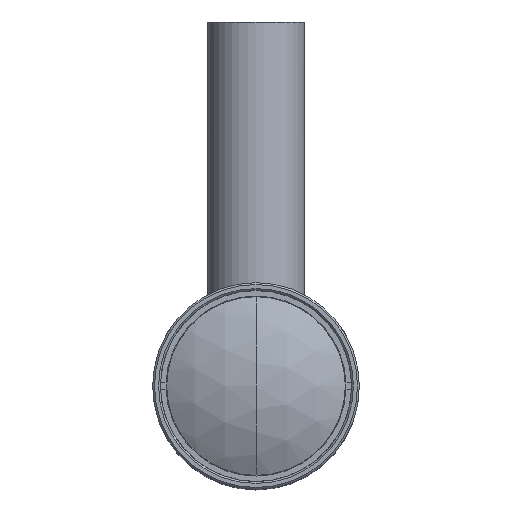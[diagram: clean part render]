
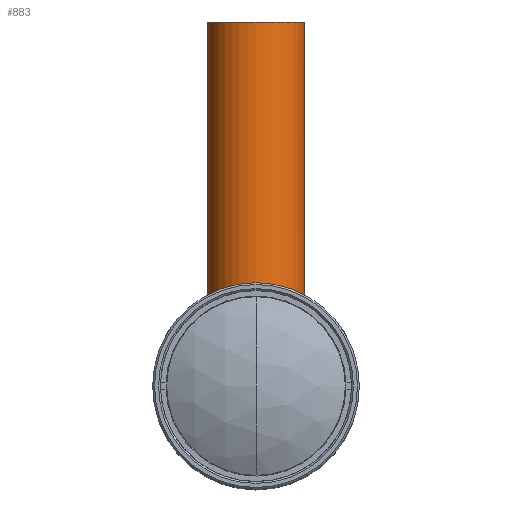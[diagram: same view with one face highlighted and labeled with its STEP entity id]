
A CAD part, top view. The second image highlights one B-rep face of the part: STEP entity #883.
In plain terms, the highlighted cylindrical face has radius 8 mm (diameter 16 mm), a partial arc.
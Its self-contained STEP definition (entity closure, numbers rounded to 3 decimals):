
#126 = AXIS2_PLACEMENT_3D ( 'NONE', #1042, #4088, #3054 ) ;
#287 = LINE ( 'NONE', #12971, #1755 ) ;
#377 = CARTESIAN_POINT ( 'NONE',  ( -7.938, 50.232, 31.879 ) ) ;
#574 = CARTESIAN_POINT ( 'NONE',  ( 0., 12.5, 30.88 ) ) ;
#631 = CARTESIAN_POINT ( 'NONE',  ( 7.938, 51.768, 31.879 ) ) ;
#637 = DIRECTION ( 'NONE',  ( 0., -1., 0. ) ) ;
#697 = CARTESIAN_POINT ( 'NONE',  ( 7.964, 50., 31.648 ) ) ;
#882 = VERTEX_POINT ( 'NONE', #6322 ) ;
#883 = ADVANCED_FACE ( 'NONE', ( #13571 ), #10525, .T. ) ;
#1042 = CARTESIAN_POINT ( 'NONE',  ( 0., 10., 30.88 ) ) ;
#1184 = VERTEX_POINT ( 'NONE', #6360 ) ;
#1414 = CARTESIAN_POINT ( 'NONE',  ( -7.926, 51.627, 31.964 ) ) ;
#1557 = CARTESIAN_POINT ( 'NONE',  ( -7.921, 51.555, 32.003 ) ) ;
#1668 = CARTESIAN_POINT ( 'NONE',  ( 7.945, 50.173, 31.821 ) ) ;
#1755 = VECTOR ( 'NONE', #8761, 1000. ) ;
#1807 = CARTESIAN_POINT ( 'NONE',  ( 8., 52.25, 30.88 ) ) ;
#1888 = VERTEX_POINT ( 'NONE', #13653 ) ;
#2437 = EDGE_LOOP ( 'NONE', ( #9072, #9733, #5534, #5002, #3156, #13139, #13136, #9430 ) ) ;
#2465 = CARTESIAN_POINT ( 'NONE',  ( -7.995, 49.783, 31.21 ) ) ;
#2593 = CARTESIAN_POINT ( 'NONE',  ( -7.907, 51.328, 32.097 ) ) ;
#2678 = VERTEX_POINT ( 'NONE', #12196 ) ;
#2719 = CARTESIAN_POINT ( 'NONE',  ( -7.964, 50.002, 31.65 ) ) ;
#2847 = CARTESIAN_POINT ( 'NONE',  ( 7.902, 50.834, 32.13 ) ) ;
#2886 = EDGE_CURVE ( 'NONE', #8905, #1184, #8321, .T. ) ;
#3048 = CARTESIAN_POINT ( 'NONE',  ( -8., 10., 30.88 ) ) ;
#3054 = DIRECTION ( 'NONE',  ( 1., 0., 0. ) ) ;
#3156 = ORIENTED_EDGE ( 'NONE', *, *, #6267, .F. ) ;
#3363 = CARTESIAN_POINT ( 'NONE',  ( -8., 52.25, 31.043 ) ) ;
#3712 = AXIS2_PLACEMENT_3D ( 'NONE', #8190, #9023, #6307 ) ;
#3774 = CARTESIAN_POINT ( 'NONE',  ( -7.964, 52., 31.648 ) ) ;
#3885 = CARTESIAN_POINT ( 'NONE',  ( 7.907, 51.327, 32.098 ) ) ;
#4088 = DIRECTION ( 'NONE',  ( 0., -1., 0. ) ) ;
#4409 = CARTESIAN_POINT ( 'NONE',  ( -8., 52.25, 30.88 ) ) ;
#4814 = DIRECTION ( 'NONE',  ( 1., 0., 0. ) ) ;
#4815 = CARTESIAN_POINT ( 'NONE',  ( -7.938, 51.763, 31.874 ) ) ;
#4934 = CARTESIAN_POINT ( 'NONE',  ( 7.977, 49.907, 31.509 ) ) ;
#4998 = CARTESIAN_POINT ( 'NONE',  ( 7.926, 50.373, 31.964 ) ) ;
#5002 = ORIENTED_EDGE ( 'NONE', *, *, #13608, .T. ) ;
#5534 = ORIENTED_EDGE ( 'NONE', *, *, #12698, .T. ) ;
#5588 = CARTESIAN_POINT ( 'NONE',  ( -8., 52.25, 30.88 ) ) ;
#5698 = EDGE_CURVE ( 'NONE', #8905, #10242, #11231, .T. ) ;
#5773 = CARTESIAN_POINT ( 'NONE',  ( 8., 49.75, 31.043 ) ) ;
#5792 = CARTESIAN_POINT ( 'NONE',  ( -7.945, 51.827, 31.821 ) ) ;
#5888 = CARTESIAN_POINT ( 'NONE',  ( 8., 60., 30.88 ) ) ;
#5906 = CARTESIAN_POINT ( 'NONE',  ( 7.907, 50.672, 32.097 ) ) ;
#5910 = LINE ( 'NONE', #3048, #6863 ) ;
#6052 = CARTESIAN_POINT ( 'NONE',  ( 8., 10., 30.88 ) ) ;
#6267 = EDGE_CURVE ( 'NONE', #1888, #882, #9928, .T. ) ;
#6307 = DIRECTION ( 'NONE',  ( 1., 0., 0. ) ) ;
#6322 = CARTESIAN_POINT ( 'NONE',  ( -8., 12.5, 30.88 ) ) ;
#6360 = CARTESIAN_POINT ( 'NONE',  ( 8., 52.25, 30.88 ) ) ;
#6863 = VECTOR ( 'NONE', #637, 1000. ) ;
#6885 = CARTESIAN_POINT ( 'NONE',  ( 8., 52.25, 31.045 ) ) ;
#7088 = CARTESIAN_POINT ( 'NONE',  ( 7.925, 51.629, 31.972 ) ) ;
#7933 = AXIS2_PLACEMENT_3D ( 'NONE', #574, #13321, #4814 ) ;
#8002 = LINE ( 'NONE', #6052, #12544 ) ;
#8046 = CARTESIAN_POINT ( 'NONE',  ( 7.902, 51.164, 32.13 ) ) ;
#8121 = CARTESIAN_POINT ( 'NONE',  ( 7.964, 51.998, 31.65 ) ) ;
#8190 = CARTESIAN_POINT ( 'NONE',  ( 0., 60., 30.88 ) ) ;
#8207 = DIRECTION ( 'NONE',  ( 0., -1., 0. ) ) ;
#8321 = LINE ( 'NONE', #10449, #13056 ) ;
#8560 = EDGE_CURVE ( 'NONE', #2678, #1888, #8002, .T. ) ;
#8631 = CARTESIAN_POINT ( 'NONE',  ( -8., 49.75, 30.88 ) ) ;
#8736 = B_SPLINE_CURVE_WITH_KNOTS ( 'NONE', 3,
 ( #4409, #3363, #12854, #9118, #3774, #5792, #4815, #1414, #1557, #2593, #9946, #9871, #11178, #10007, #377, #2719, #12080, #2465, #13059, #8980 ),
 .UNSPECIFIED., .F., .F.,
 ( 4, 2, 2, 2, 2, 2, 2, 2, 2, 4 ),
 ( 0.004, 0.004, 0.005, 0.005, 0.005, 0.006, 0.006, 0.007, 0.007, 0.008 ),
 .UNSPECIFIED. ) ;
#8761 = DIRECTION ( 'NONE',  ( 0., -1., 0. ) ) ;
#8905 = VERTEX_POINT ( 'NONE', #5888 ) ;
#8962 = CARTESIAN_POINT ( 'NONE',  ( 7.977, 52.092, 31.51 ) ) ;
#8980 = CARTESIAN_POINT ( 'NONE',  ( -8., 49.75, 30.88 ) ) ;
#9023 = DIRECTION ( 'NONE',  ( 0., -1., 0. ) ) ;
#9072 = ORIENTED_EDGE ( 'NONE', *, *, #5698, .T. ) ;
#9118 = CARTESIAN_POINT ( 'NONE',  ( -7.977, 52.093, 31.509 ) ) ;
#9430 = ORIENTED_EDGE ( 'NONE', *, *, #2886, .F. ) ;
#9733 = ORIENTED_EDGE ( 'NONE', *, *, #13153, .T. ) ;
#9871 = CARTESIAN_POINT ( 'NONE',  ( -7.902, 50.836, 32.13 ) ) ;
#9928 = CIRCLE ( 'NONE', #7933, 8. ) ;
#9946 = CARTESIAN_POINT ( 'NONE',  ( -7.902, 51.166, 32.13 ) ) ;
#9989 = CARTESIAN_POINT ( 'NONE',  ( 7.921, 50.445, 32.003 ) ) ;
#10007 = CARTESIAN_POINT ( 'NONE',  ( -7.925, 50.371, 31.972 ) ) ;
#10242 = VERTEX_POINT ( 'NONE', #11372 ) ;
#10449 = CARTESIAN_POINT ( 'NONE',  ( 8., 10., 30.88 ) ) ;
#10515 = EDGE_CURVE ( 'NONE', #2678, #1184, #12221, .T. ) ;
#10525 = CYLINDRICAL_SURFACE ( 'NONE', #126, 8. ) ;
#11096 = CARTESIAN_POINT ( 'NONE',  ( 7.938, 50.237, 31.874 ) ) ;
#11178 = CARTESIAN_POINT ( 'NONE',  ( -7.907, 50.673, 32.098 ) ) ;
#11231 = CIRCLE ( 'NONE', #3712, 8. ) ;
#11372 = CARTESIAN_POINT ( 'NONE',  ( -8., 60., 30.88 ) ) ;
#11552 = DIRECTION ( 'NONE',  ( 0., -1., 0. ) ) ;
#12080 = CARTESIAN_POINT ( 'NONE',  ( -7.977, 49.908, 31.51 ) ) ;
#12194 = CARTESIAN_POINT ( 'NONE',  ( 7.995, 49.783, 31.208 ) ) ;
#12196 = CARTESIAN_POINT ( 'NONE',  ( 8., 49.75, 30.88 ) ) ;
#12221 = B_SPLINE_CURVE_WITH_KNOTS ( 'NONE', 3,
 ( #13238, #5773, #12194, #4934, #697, #1668, #11096, #4998, #9989, #5906, #2847, #8046, #3885, #7088, #631, #8121, #8962, #12335, #6885, #1807 ),
 .UNSPECIFIED., .F., .F.,
 ( 4, 2, 2, 2, 2, 2, 2, 2, 2, 4 ),
 ( 0.004, 0.004, 0.005, 0.005, 0.005, 0.006, 0.006, 0.007, 0.007, 0.008 ),
 .UNSPECIFIED. ) ;
#12335 = CARTESIAN_POINT ( 'NONE',  ( 7.995, 52.217, 31.21 ) ) ;
#12544 = VECTOR ( 'NONE', #8207, 1000. ) ;
#12659 = VERTEX_POINT ( 'NONE', #5588 ) ;
#12698 = EDGE_CURVE ( 'NONE', #12659, #12953, #8736, .T. ) ;
#12854 = CARTESIAN_POINT ( 'NONE',  ( -7.995, 52.217, 31.208 ) ) ;
#12953 = VERTEX_POINT ( 'NONE', #8631 ) ;
#12971 = CARTESIAN_POINT ( 'NONE',  ( -8., 10., 30.88 ) ) ;
#13056 = VECTOR ( 'NONE', #11552, 1000. ) ;
#13059 = CARTESIAN_POINT ( 'NONE',  ( -8., 49.75, 31.045 ) ) ;
#13136 = ORIENTED_EDGE ( 'NONE', *, *, #10515, .T. ) ;
#13139 = ORIENTED_EDGE ( 'NONE', *, *, #8560, .F. ) ;
#13153 = EDGE_CURVE ( 'NONE', #10242, #12659, #287, .T. ) ;
#13238 = CARTESIAN_POINT ( 'NONE',  ( 8., 49.75, 30.88 ) ) ;
#13321 = DIRECTION ( 'NONE',  ( 0., -1., 0. ) ) ;
#13571 = FACE_OUTER_BOUND ( 'NONE', #2437, .T. ) ;
#13608 = EDGE_CURVE ( 'NONE', #12953, #882, #5910, .T. ) ;
#13653 = CARTESIAN_POINT ( 'NONE',  ( 8., 12.5, 30.88 ) ) ;
